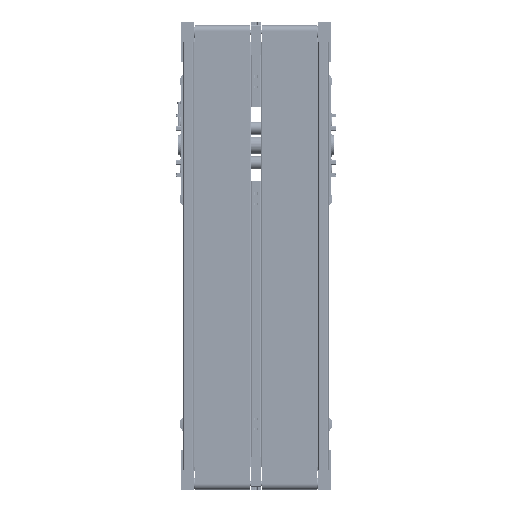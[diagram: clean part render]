
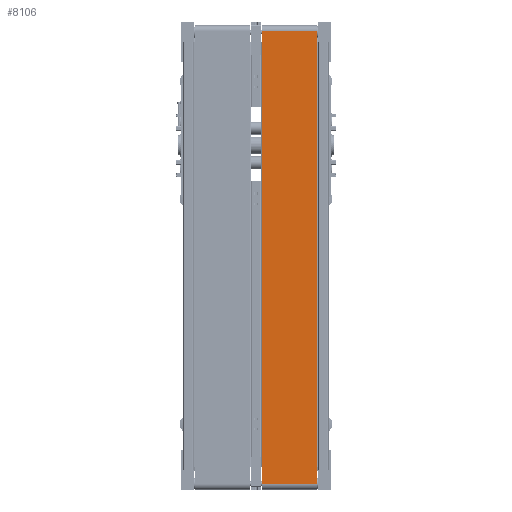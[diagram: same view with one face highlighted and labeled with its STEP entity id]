
A CAD part, left-side view. The second image highlights one B-rep face of the part: STEP entity #8106.
In plain terms, the highlighted planar face has unit normal (-1, 0, 0) as drawn and (0, 1, 0) by its records, which use the part's own axes.
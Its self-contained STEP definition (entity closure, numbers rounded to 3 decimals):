
#3717=PLANE('',#103927);
#8106=ADVANCED_FACE('',(#15094),#3717,.F.);
#15094=FACE_OUTER_BOUND('',#20208,.T.);
#20208=EDGE_LOOP('',(#59689,#59690,#59691,#59692));
#31622=LINE('',#165104,#39735);
#31628=LINE('',#165127,#39741);
#31638=LINE('',#165163,#39751);
#31645=LINE('',#165178,#39758);
#39735=VECTOR('',#122641,1.);
#39741=VECTOR('',#122661,1.);
#39751=VECTOR('',#122691,1.);
#39758=VECTOR('',#122714,1.);
#59689=ORIENTED_EDGE('',*,*,#90213,.T.);
#59690=ORIENTED_EDGE('',*,*,#90232,.F.);
#59691=ORIENTED_EDGE('',*,*,#90201,.F.);
#59692=ORIENTED_EDGE('',*,*,#90239,.T.);
#77706=VERTEX_POINT('',#165088);
#77713=VERTEX_POINT('',#165103);
#77723=VERTEX_POINT('',#165126);
#77724=VERTEX_POINT('',#165128);
#90201=EDGE_CURVE('',#77713,#77706,#31622,.T.);
#90213=EDGE_CURVE('',#77724,#77723,#31628,.T.);
#90232=EDGE_CURVE('',#77706,#77723,#31638,.T.);
#90239=EDGE_CURVE('',#77713,#77724,#31645,.T.);
#103927=AXIS2_PLACEMENT_3D('',#165180,#122717,#122718);
#122641=DIRECTION('',(-1.,0.,0.));
#122661=DIRECTION('',(-1.,0.,0.));
#122691=DIRECTION('',(0.,0.,-1.));
#122714=DIRECTION('',(0.,0.,-1.));
#122717=DIRECTION('',(0.,-1.,0.));
#122718=DIRECTION('',(-1.,0.,0.));
#165088=CARTESIAN_POINT('',(-18153.081,-507.855,215.));
#165103=CARTESIAN_POINT('',(-16377.025,-507.855,215.));
#165104=CARTESIAN_POINT('',(-18153.081,-507.855,215.));
#165126=CARTESIAN_POINT('',(-18153.081,-507.855,0.));
#165127=CARTESIAN_POINT('',(-18153.081,-507.855,0.));
#165128=CARTESIAN_POINT('',(-16377.025,-507.855,0.));
#165163=CARTESIAN_POINT('',(-18153.081,-507.855,215.));
#165178=CARTESIAN_POINT('',(-16377.025,-507.855,215.));
#165180=CARTESIAN_POINT('',(-18153.081,-507.855,215.));
